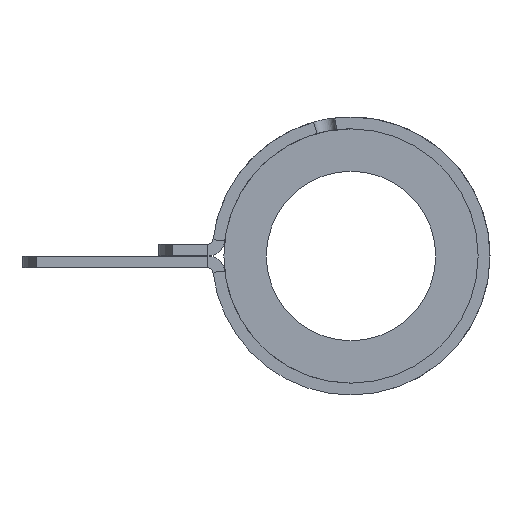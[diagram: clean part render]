
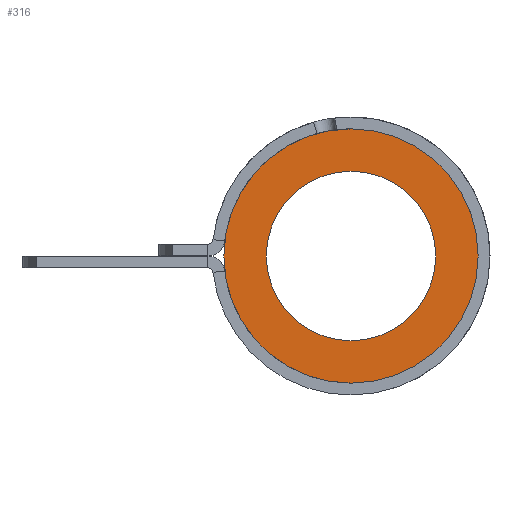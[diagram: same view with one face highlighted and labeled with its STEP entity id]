
A CAD part, left-side view. The second image highlights one B-rep face of the part: STEP entity #316.
In plain terms, the highlighted planar face has unit normal (-1, 0, 0).
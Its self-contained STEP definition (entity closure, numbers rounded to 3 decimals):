
#1 = VERTEX_POINT ( 'NONE', #774 ) ;
#96 = VERTEX_POINT ( 'NONE', #772 ) ;
#106 = VERTEX_POINT ( 'NONE', #783 ) ;
#131 = EDGE_LOOP ( 'NONE', ( #834, #835 ) ) ;
#316 = ADVANCED_FACE ( 'NONE', ( #1438, #1442 ), #797, .F. ) ;
#385 = EDGE_CURVE ( 'NONE', #106, #1, #1354, .T. ) ;
#487 = EDGE_CURVE ( 'NONE', #96, #1299, #1657, .T. ) ;
#494 = EDGE_CURVE ( 'NONE', #1299, #96, #1659, .T. ) ;
#509 = EDGE_CURVE ( 'NONE', #1, #106, #1677, .T. ) ;
#545 = AXIS2_PLACEMENT_3D ( 'NONE', #1523, #1524, #1525 ) ;
#551 = AXIS2_PLACEMENT_3D ( 'NONE', #699, #700, #701 ) ;
#553 = AXIS2_PLACEMENT_3D ( 'NONE', #691, #692, #693 ) ;
#562 = AXIS2_PLACEMENT_3D ( 'NONE', #1075, #1076, #1077 ) ;
#607 = AXIS2_PLACEMENT_3D ( 'NONE', #794, #799, #800 ) ;
#691 = CARTESIAN_POINT ( 'NONE',  ( -82.55, 0., 0. ) ) ;
#692 = DIRECTION ( 'NONE',  ( 1., 0., 0. ) ) ;
#693 = DIRECTION ( 'NONE',  ( 0., 0., -1. ) ) ;
#699 = CARTESIAN_POINT ( 'NONE',  ( -82.55, 0., 0. ) ) ;
#700 = DIRECTION ( 'NONE',  ( 1., 0., 0. ) ) ;
#701 = DIRECTION ( 'NONE',  ( 0., 0., -1. ) ) ;
#772 = CARTESIAN_POINT ( 'NONE',  ( -82.55, 0., -9.525 ) ) ;
#774 = CARTESIAN_POINT ( 'NONE',  ( -82.55, 0., 6.35 ) ) ;
#783 = CARTESIAN_POINT ( 'NONE',  ( -82.55, 0., -6.35 ) ) ;
#794 = CARTESIAN_POINT ( 'NONE',  ( -82.55, 0., 0. ) ) ;
#797 = PLANE ( 'NONE',  #607 ) ;
#799 = DIRECTION ( 'NONE',  ( 1., 0., 0. ) ) ;
#800 = DIRECTION ( 'NONE',  ( 0., 0., -1. ) ) ;
#834 = ORIENTED_EDGE ( 'NONE', *, *, #494, .F. ) ;
#835 = ORIENTED_EDGE ( 'NONE', *, *, #487, .F. ) ;
#836 = ORIENTED_EDGE ( 'NONE', *, *, #509, .T. ) ;
#837 = ORIENTED_EDGE ( 'NONE', *, *, #385, .T. ) ;
#874 = EDGE_LOOP ( 'NONE', ( #836, #837 ) ) ;
#933 = CARTESIAN_POINT ( 'NONE',  ( -82.55, 0., 9.525 ) ) ;
#1075 = CARTESIAN_POINT ( 'NONE',  ( -82.55, 0., 0. ) ) ;
#1076 = DIRECTION ( 'NONE',  ( 1., 0., 0. ) ) ;
#1077 = DIRECTION ( 'NONE',  ( 0., 0., -1. ) ) ;
#1299 = VERTEX_POINT ( 'NONE', #933 ) ;
#1354 = CIRCLE ( 'NONE', #562, 6.35 ) ;
#1438 = FACE_OUTER_BOUND ( 'NONE', #131, .T. ) ;
#1442 = FACE_BOUND ( 'NONE', #874, .T. ) ;
#1523 = CARTESIAN_POINT ( 'NONE',  ( -82.55, 0., 0. ) ) ;
#1524 = DIRECTION ( 'NONE',  ( 1., 0., 0. ) ) ;
#1525 = DIRECTION ( 'NONE',  ( 0., 0., -1. ) ) ;
#1657 = CIRCLE ( 'NONE', #553, 9.525 ) ;
#1659 = CIRCLE ( 'NONE', #551, 9.525 ) ;
#1677 = CIRCLE ( 'NONE', #545, 6.35 ) ;
